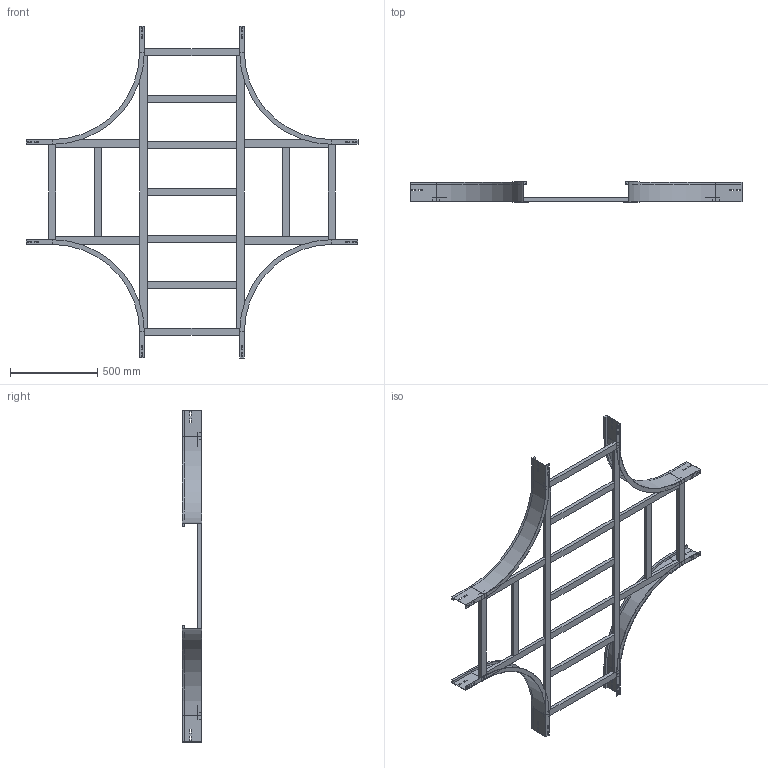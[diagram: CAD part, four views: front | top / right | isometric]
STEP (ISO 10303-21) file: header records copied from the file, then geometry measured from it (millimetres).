
FILE_DESCRIPTION (( 'STEP AP214' ), '1' );
FILE_NAME ('17B5J600.step', '2025-02-21T15:56:16', ( '' ), ( '' ), 'SwSTEP 2.0', 'SolidWorks 2023', '' );
FILE_SCHEMA (( 'AUTOMOTIVE_DESIGN' ));
Length unit declared in the file: millimetre
Products named in the file (7): TRAVERSINO_INTERMEDIO_R500+600; TRAVERSINO_600; TRAVERSINO_VERT_R500; LONGH.INTERNO 90°_H112.5_R500; TRAVERSINO_LONG._R500+600; TRAVERSINO_COPPIA_600; 17B5J600
Assembly tree (21 placements, depth 2):
  17B5J600
    LONGH.INTERNO 90°_H112.5_R500  x4
    TRAVERSINO_600  x4
    TRAVERSINO_LONG._R500+600  x2
    TRAVERSINO_INTERMEDIO_R500+600  x5
    TRAVERSINO_VERT_R500  x4
    TRAVERSINO_COPPIA_600  x2
Bounding box: 1900 x 112.5 x 1900 mm (x, y, z)
Volume: 10974050.5 mm3; surface area: 2720127.6 mm2
Topology: 21 solids, 21 shells, 334 faces, 812 edges, 520 vertices
Faces by surface type: plane 318, cylinder 16
Entity records: 2868 total; most frequent: CARTESIAN_POINT 460, DIRECTION 444, ORIENTED_EDGE 424, EDGE_CURVE 212, VECTOR 204, LINE 204, VERTEX_POINT 136, AXIS2_PLACEMENT_3D 120
